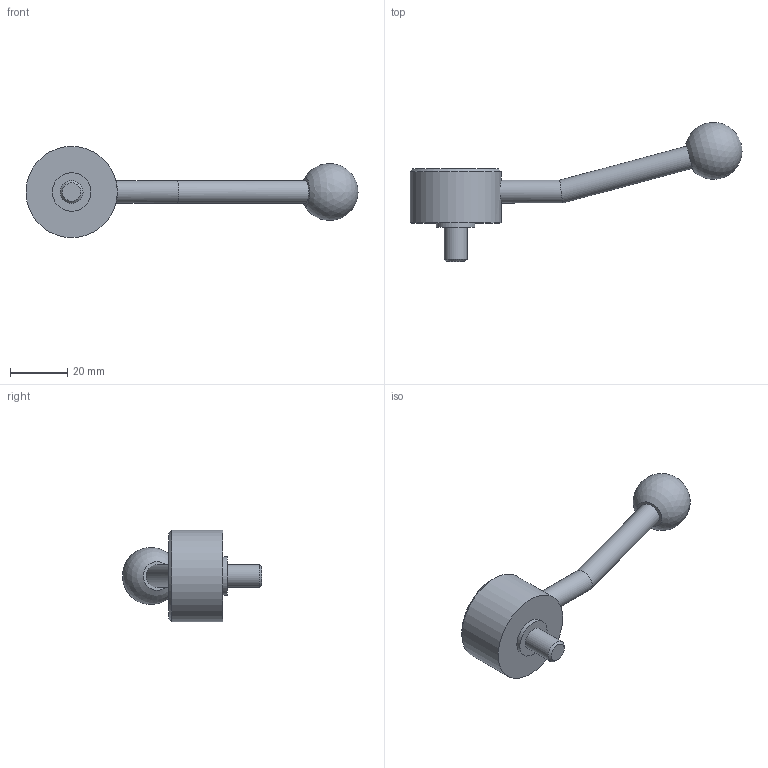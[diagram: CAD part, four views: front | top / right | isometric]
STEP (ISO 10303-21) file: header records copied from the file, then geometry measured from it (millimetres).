
FILE_DESCRIPTION( ( 'STEP AP203' ), '1' );
FILE_NAME( 'C:/Temp/Ganter_Step_05_03_2020/data/2_1/gn_125/gn_125_ms/gn_125_ms_e/Flat Adjustable Lever GN 125-32-M8-12-E.stp', '2020-03-05T11:00:53', ( 'License CC BY-ND 4.0' ), ( 'CADENAS' ), ' ', 'PARTsolutions', ' ' );
FILE_SCHEMA( ( 'CONFIG_CONTROL_DESIGN' ) );
Length unit declared in the file: millimetre
Products named in the file (1): _Flat Adjustable Lever GN 125-32-M8-12-E
Bounding box: 116.34 x 48.72 x 32 mm (x, y, z)
Volume: 23484.1 mm3; surface area: 6683.7 mm2
Topology: 1 solids, 1 shells, 15 faces, 26 edges, 17 vertices
Faces by surface type: cylinder 6, plane 6, cone 2, sphere 1
Full cylindrical faces by diameter (mm): 8 x3, 13.5 x1, 22 x1, 32 x1
Entity records: 404 total; most frequent: CARTESIAN_POINT 110, DIRECTION 58, AXIS2_PLACEMENT_3D 29, EDGE_LOOP 28, ORIENTED_EDGE 28, FACE_OUTER_BOUND 21, ADVANCED_FACE 15, VERTEX_POINT 15
